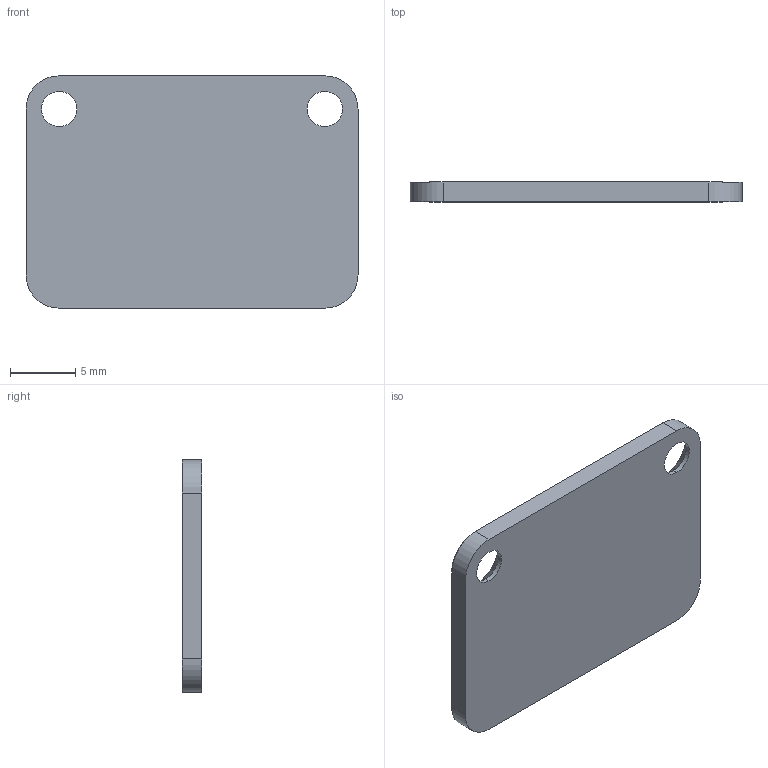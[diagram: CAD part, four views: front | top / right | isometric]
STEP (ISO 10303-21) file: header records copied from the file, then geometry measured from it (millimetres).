
FILE_DESCRIPTION (( 'STEP AP203' ), '1' );
FILE_NAME ('Adafruit_ISM330DHXC_CASE_BOT.STEP');
FILE_SCHEMA (( 'CONFIG_CONTROL_DESIGN' ));
Length unit declared in the file: millimetre
Products named in the file (1): Adafruit_ISM330DHXC_CASE_BOT
Bounding box: 25.4 x 1.5 x 17.78 mm (x, y, z)
Volume: 637.5 mm3; surface area: 1009.7 mm2
Topology: 1 solids, 1 shells, 18 faces, 44 edges, 28 vertices
Faces by surface type: cylinder 8, plane 6, cone 4
Entity records: 621 total; most frequent: DIRECTION 102, CARTESIAN_POINT 91, ORIENTED_EDGE 88, EDGE_CURVE 44, AXIS2_PLACEMENT_3D 39, VERTEX_POINT 28, LINE 24, VECTOR 24
